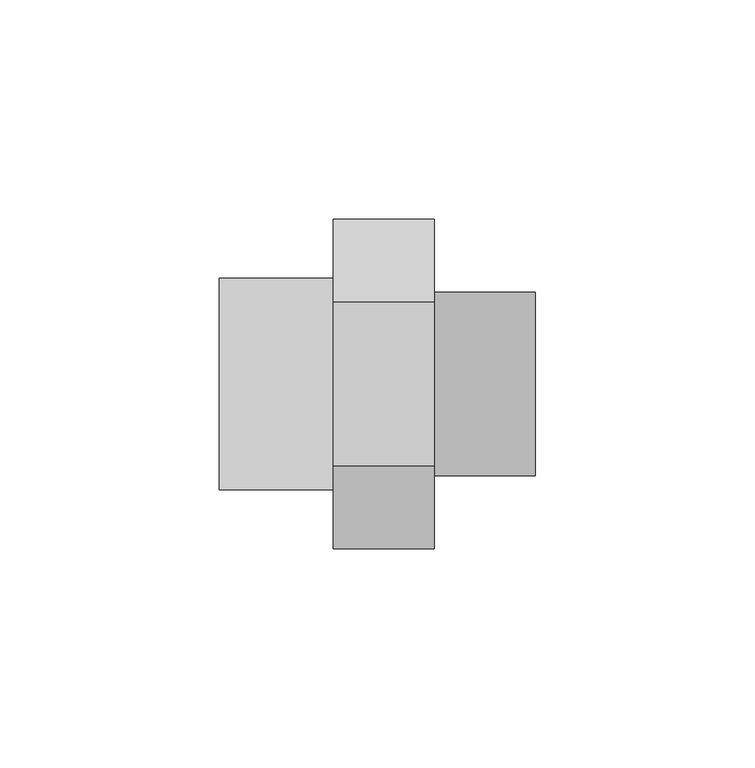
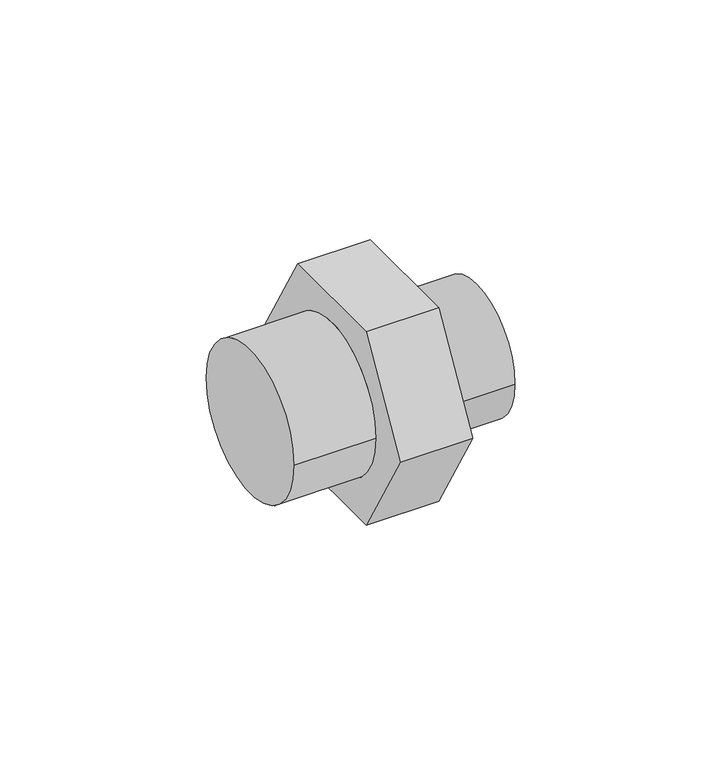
"""IFC4 building model written with IfcOpenShell, lengths in millimetres: pipe fitting geometry, 01011197 : Casquilho Duplo Redução."""

from ifc_helpers import new_model, si_unit, frame, origin, place, context, project, spatial, circle_curve, source, transform, mapped, element, save
from ifc_brep_helpers import plane_surface, cylinder_surface, advanced_brep


def pipe_fitting_10e880fc(model_context):
    return source(origin(), model_context, "Body", "AdvancedBrep", [
        advanced_brep(
        [(49.0, -18.7638837, 32.5), (49.0, -37.5277675, 0.0), (49.0, -18.7638837, -32.5), (49.0, 18.7638837, -32.5), (49.0, 37.5277675, 0.0), (49.0, 18.7638837, 32.5), (49.0, -20.955, 0.0), (49.0, 20.955, 0.0), (26.0, -18.7638837, 32.5), (26.0, 18.7638837, 32.5), (26.0, 37.5277675, 0.0), (26.0, 18.7638837, -32.5), (26.0, -18.7638837, -32.5), (26.0, -37.5277675, 0.0), (26.0, 24.13, 0.0), (26.0, -24.13, 0.0), (72.0, -20.955, 0.0), (72.0, 20.955, 0.0), (0.0, 24.13, 0.0), (0.0, -24.13, 0.0)],
        [
            (0, 1),
            (1, 2),
            (2, 3),
            (3, 4),
            (4, 5),
            (5, 0),
            (6, 7, circle_curve(frame((49.0, 0.0, 0.0), z_axis=(-1.0, 0.0, 0.0), x_axis=(0.0, 1.0, 0.0)), 20.955)),
            (7, 6, circle_curve(frame((49.0, 0.0, 0.0), z_axis=(-1.0, 0.0, 0.0), x_axis=(0.0, 1.0, 0.0)), 20.955)),
            (8, 9),
            (9, 10),
            (10, 11),
            (11, 12),
            (12, 13),
            (13, 8),
            (14, 15, circle_curve(frame((26.0, 0.0, 0.0), z_axis=(1.0, 0.0, 0.0), x_axis=(0.0, -1.0, 0.0)), 24.13)),
            (15, 14, circle_curve(frame((26.0, 0.0, 0.0), z_axis=(1.0, 0.0, 0.0), x_axis=(0.0, -1.0, 0.0)), 24.13)),
            (0, 8),
            (13, 1),
            (12, 2),
            (11, 3),
            (10, 4),
            (9, 5),
            (16, 17, circle_curve(frame((72.0, 0.0, 0.0), z_axis=(1.0, 0.0, 0.0), x_axis=(0.0, 1.0, 0.0)), 20.955)),
            (17, 16, circle_curve(frame((72.0, 0.0, 0.0), z_axis=(1.0, 0.0, 0.0), x_axis=(0.0, 1.0, 0.0)), 20.955)),
            (17, 7),
            (6, 16),
            (18, 19, circle_curve(frame((0.0, 0.0, 0.0), z_axis=(-1.0, 0.0, 0.0), x_axis=(0.0, -1.0, 0.0)), 24.13)),
            (19, 18, circle_curve(frame((0.0, 0.0, 0.0), z_axis=(-1.0, 0.0, 0.0), x_axis=(0.0, -1.0, 0.0)), 24.13)),
            (19, 15),
            (14, 18),
        ],
        [
            plane_surface(frame((49.0, -18.7638837, 32.5), z_axis=(1.0000000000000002, 0.0, 0.0), x_axis=(0.0, -0.5000000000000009, -0.8660254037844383))),
            plane_surface(frame((26.0, -18.7638837, 32.5), z_axis=(-1.0000000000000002, 0.0, 0.0), x_axis=(0.0, 0.5000000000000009, 0.8660254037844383))),
            plane_surface(frame((49.0, -18.7638837, 32.5), z_axis=(0.0, -0.8660254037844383, 0.5000000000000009), x_axis=(-1.0, 0.0, 0.0))),
            plane_surface(frame((49.0, -37.5277675, 0.0), z_axis=(0.0, -0.8660254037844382, -0.5000000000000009), x_axis=(-1.0, 0.0, 0.0))),
            plane_surface(frame((49.0, -18.7638837, -32.5), z_axis=(0.0, 0.0, -1.0), x_axis=(-1.0, 0.0, 0.0))),
            plane_surface(frame((49.0, 18.7638837, -32.5), z_axis=(0.0, 0.8660254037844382, -0.5000000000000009), x_axis=(-1.0, 0.0, 0.0))),
            plane_surface(frame((49.0, 37.5277675, 0.0), z_axis=(0.0, 0.8660254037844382, 0.500000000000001), x_axis=(-1.0, 0.0, 0.0))),
            plane_surface(frame((49.0, 18.7638837, 32.5), z_axis=(0.0, 0.0, 1.0), x_axis=(-1.0, 0.0, 0.0))),
            plane_surface(frame((72.0, 0.0, 0.0), z_axis=(1.0, 0.0, 0.0), x_axis=(0.0, 0.0, 1.0))),
            cylinder_surface(frame((49.0, 0.0, 0.0), z_axis=(-1.0, 0.0, 0.0), x_axis=(0.0, 1.0, 0.0)), 20.955),
            plane_surface(frame((0.0, 0.0, 0.0), z_axis=(-1.0, 0.0, 0.0), x_axis=(0.0, 0.0, 1.0))),
            cylinder_surface(frame((26.0, 0.0, 0.0), z_axis=(1.0, 0.0, 0.0), x_axis=(0.0, -1.0, 0.0)), 24.13),
        ],
        [
            (0, [[1, 2, 3, 4, 5, 6], [7, 8]]),
            (1, [[9, 10, 11, 12, 13, 14], [15, 16]]),
            (2, [[-1, 17, -14, 18]]),
            (3, [[-2, -18, -13, 19]]),
            (4, [[-3, -19, -12, 20]]),
            (5, [[-4, -20, -11, 21]]),
            (6, [[-5, -21, -10, 22]]),
            (7, [[-6, -22, -9, -17]]),
            (8, [[23, 24]]),
            (9, [[-24, 25, -7, 26]]),
            (9, [[-23, -26, -8, -25]]),
            (10, [[27, 28]]),
            (11, [[-28, 29, -15, 30]]),
            (11, [[-27, -30, -16, -29]]),
        ],
    ),
    ])


if __name__ == "__main__":
    model = new_model("IFC4")
    model_context = context("Model", 3, world=origin())
    ifc_project = project(units=[si_unit("LENGTHUNIT", "METRE", prefix="MILLI")], contexts=[model_context])
    site = spatial("IfcSite", under=ifc_project)
    building = spatial("IfcBuilding", under=site)
    placement = place(None, origin())
    pipe_fitting_shape = pipe_fitting_10e880fc(model_context)
    element("IfcPipeFitting", 1, ObjectType="01011197 : Casquilho Duplo Redução", at=placement, inside=building, context=model_context, shape_type="MappedRepresentation", body=[
        mapped(pipe_fitting_shape, transform((0.0, 0.0, 0.0), x_axis=(1.0, 0.0, 0.0), y_axis=(0.0, 1.0, 0.0), z_axis=(0.0, 0.0, 1.0))),
    ])
    save(model, "model.ifc")
